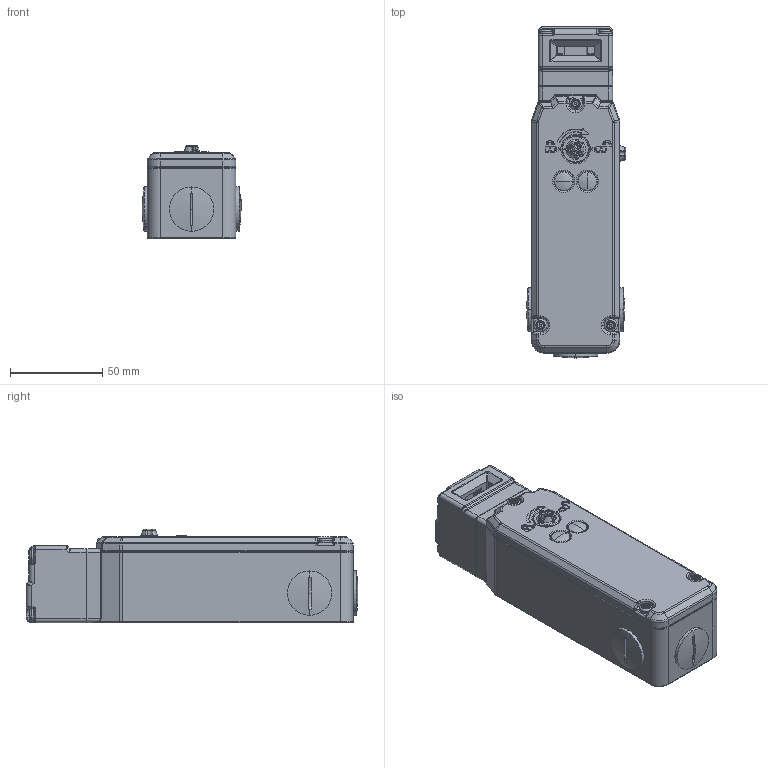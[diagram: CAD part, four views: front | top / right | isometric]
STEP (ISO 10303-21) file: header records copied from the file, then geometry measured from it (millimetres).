
FILE_DESCRIPTION (( 'STEP AP203' ), '1' );
FILE_NAME ('205-KL3-SS (step format).STEP', '2013-10-01T09:59:26', ( '' ), ( '' ), 'SwSTEP 2.0', 'SolidWorks 2013', '' );
FILE_SCHEMA (( 'CONFIG_CONTROL_DESIGN' ));
Products named in the file (1): 205-KL3-SS (step format)
Bounding box: 53.74 x 179.64 x 50.5 mm (x, y, z)
Volume: 132313 mm3; surface area: 91279.6 mm2
Topology: 19 solids, 19 shells, 3272 faces, 7789 edges, 4454 vertices
Faces by surface type: cylinder 1354, plane 757, torus 580, cone 230, bspline 206, sphere 145
Entity records: 98897 total; most frequent: CARTESIAN_POINT 24505, DIRECTION 16706, ORIENTED_EDGE 15184, EDGE_CURVE 7592, AXIS2_PLACEMENT_3D 6878, VERTEX_POINT 4438, CIRCLE 3811, EDGE_LOOP 3408
